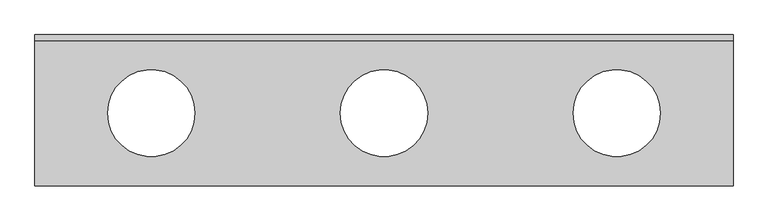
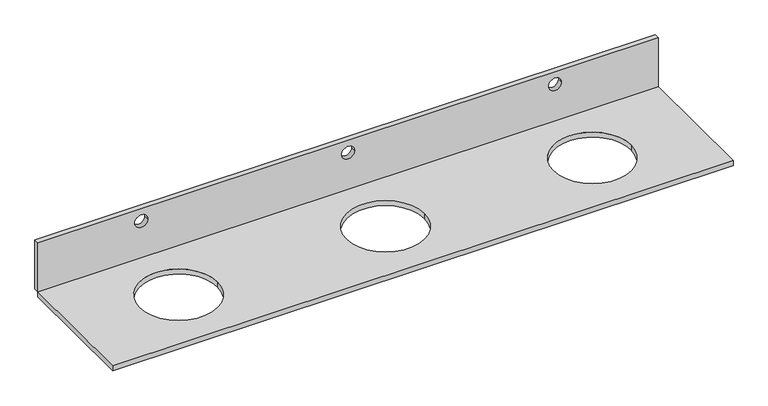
"""IFC4 building model written with IfcOpenShell, lengths in millimetres: furniture geometry, P03 Mesada Silestone 3 bachas : P03 Mesada Silestone 3 bachas."""

import ifcopenshell
import ifcopenshell.guid

model = None  # the IFC model being written
_history = None  # IfcOwnerHistory: only IFC2X3 demands one
_inside = {}  # id of a spatial element -> (the spatial element, [elements in it])
_under = {}  # id of a project, library or spatial element -> (it, [spatial elements below it])
_declared = {}  # id of a project -> (the project, [libraries it declares])
_typed = {}  # id of a type object -> (the type object, [elements of that type])
_made_of = {}  # id of a material, layer set ... -> (it, [elements and type objects made of it])


def new_model(schema):
    """Start an empty IFC model of exactly this schema.

    Asked for "IFC4X3", IfcOpenShell would pick the latest addendum, in which some entities
    have other attributes; the version numbers below select the first issue.
    IFC2X3 requires an IfcOwnerHistory on every rooted entity: one is made here for all.
    """
    global model, _history
    if schema == "IFC4X3":
        model = ifcopenshell.file(schema_version=(4, 3, 0, 0))
    else:
        model = ifcopenshell.file(schema=schema)
    _inside.clear()
    _under.clear()
    _declared.clear()
    _typed.clear()
    _made_of.clear()
    _history = None
    if model.schema == "IFC2X3":
        org = make("IfcOrganization", Name="unknown")
        user = make(
            "IfcPersonAndOrganization",
            ThePerson=make("IfcPerson", FamilyName="unknown"),
            TheOrganization=org,
        )
        app = make(
            "IfcApplication",
            ApplicationDeveloper=org,
            Version="unknown",
            ApplicationFullName="unknown",
            ApplicationIdentifier="unknown",
        )
        _history = make(
            "IfcOwnerHistory",
            OwningUser=user,
            OwningApplication=app,
            ChangeAction="ADDED",
            CreationDate=0,
        )
    return model


def make(cls, **values):
    """One entity of the class cls with the attributes given. An attribute that is None is left unset."""
    return model.create_entity(
        cls, **{name: value for name, value in values.items() if value is not None}
    )


def rooted(cls, **values):
    """An entity with a GlobalId (a new one), such as an element, a storey or a relation."""
    return make(cls, GlobalId=ifcopenshell.guid.new(), OwnerHistory=_history, **values)


def si_unit(unit_type, name, prefix=None):
    """IfcSIUnit, for example si_unit("LENGTHUNIT", "METRE", prefix="MILLI")."""
    return make("IfcSIUnit", UnitType=unit_type, Prefix=prefix, Name=name)


def assignment(units):
    """IfcUnitAssignment: the units of a project."""
    return None if units is None else make("IfcUnitAssignment", Units=units)


def point(xyz):
    """IfcCartesianPoint."""
    return None if xyz is None else make("IfcCartesianPoint", Coordinates=xyz)


def direction(xyz):
    """IfcDirection."""
    return None if xyz is None else make("IfcDirection", DirectionRatios=xyz)


def frame(location, z_axis=None, x_axis=None):
    """IfcAxis2Placement3D, a coordinate frame: its origin and axes. An axis left out is left unset."""
    return make(
        "IfcAxis2Placement3D",
        Location=point(location),
        Axis=direction(z_axis),
        RefDirection=direction(x_axis),
    )


def frame_2d(location, x_axis=None):
    """IfcAxis2Placement2D, a coordinate frame in the plane: its origin and x axis."""
    return make(
        "IfcAxis2Placement2D", Location=point(location), RefDirection=direction(x_axis)
    )


def origin():
    """The frame at (0, 0, 0) with its axes left unset."""
    return frame((0.0, 0.0, 0.0))


def origin_with_axes():
    """The frame at (0, 0, 0) with the z axis (0, 0, 1) and the x axis (1, 0, 0) written out."""
    return frame((0.0, 0.0, 0.0), z_axis=(0.0, 0.0, 1.0), x_axis=(1.0, 0.0, 0.0))


def place(relative_to, where):
    """IfcLocalPlacement: puts the frame where relative to a parent placement (None: the world)."""
    return make(
        "IfcLocalPlacement", PlacementRelTo=relative_to, RelativePlacement=where
    )


def context(
    kind, dimensions, precision=None, world=None, true_north=None, identifier=None
):
    """IfcGeometricRepresentationContext, for example the 3D "Model" context."""
    return make(
        "IfcGeometricRepresentationContext",
        ContextIdentifier=identifier,
        ContextType=kind,
        CoordinateSpaceDimension=dimensions,
        Precision=precision,
        WorldCoordinateSystem=world,
        TrueNorth=true_north,
    )


def project(units=None, contexts=None):
    """IfcProject with its units and contexts."""
    return rooted(
        "IfcProject",
        Name="project",
        RepresentationContexts=contexts,
        UnitsInContext=assignment(units),
    )


def spatial(cls, under=None, at=None, **own):
    """A site, building, storey or space (cls), placed at a placement, below another one or the project."""
    s = rooted(cls, ObjectPlacement=at, **own)
    if under is not None:
        _under.setdefault(under.id(), (under, []))[1].append(s)
    return s


def polyline(points):
    """IfcPolyline through the points."""
    return make("IfcPolyline", Points=[point(p) for p in points])


def circle_curve(where, radius):
    """IfcCircle in the frame where."""
    return make("IfcCircle", Position=where, Radius=radius)


def trimmed(basis, trim1, trim2, sense, master):
    """IfcTrimmedCurve: the piece of a basis curve between two trims."""
    return make(
        "IfcTrimmedCurve",
        BasisCurve=basis,
        Trim1=trim1,
        Trim2=trim2,
        SenseAgreement=sense,
        MasterRepresentation=master,
    )


def segment(curve, same_sense, transition):
    """IfcCompositeCurveSegment."""
    return make(
        "IfcCompositeCurveSegment",
        Transition=transition,
        SameSense=same_sense,
        ParentCurve=curve,
    )


def composite_curve(segments, self_intersect=None):
    """IfcCompositeCurve: segments joined end to end."""
    return make("IfcCompositeCurve", Segments=segments, SelfIntersect=self_intersect)


def outline(outer, holes=None, kind="AREA"):
    """IfcArbitraryClosedProfileDef: a profile drawn as a closed curve; with holes, ...WithVoids."""
    if holes is None:
        return make("IfcArbitraryClosedProfileDef", ProfileType=kind, OuterCurve=outer)
    return make(
        "IfcArbitraryProfileDefWithVoids",
        ProfileType=kind,
        OuterCurve=outer,
        InnerCurves=holes,
    )


def extrude(swept, where, along, depth):
    """IfcExtrudedAreaSolid: the profile swept, set in the frame where, extruded along a direction by depth."""
    return make(
        "IfcExtrudedAreaSolid",
        SweptArea=swept,
        Position=where,
        ExtrudedDirection=direction(along),
        Depth=depth,
    )


def shape(context_of_items, identifier, shape_type, items):
    """IfcShapeRepresentation: the items that make up one representation, for example the "Body"."""
    return make(
        "IfcShapeRepresentation",
        ContextOfItems=context_of_items,
        RepresentationIdentifier=identifier,
        RepresentationType=shape_type,
        Items=items,
    )


def source(mapping_origin, context_of_items, identifier, shape_type, items):
    """IfcRepresentationMap: a shape defined once, which mapped items show again and again."""
    return make(
        "IfcRepresentationMap",
        MappingOrigin=mapping_origin,
        MappedRepresentation=shape(context_of_items, identifier, shape_type, items),
    )


def transform(
    local_origin,
    x_axis=None,
    y_axis=None,
    z_axis=None,
    scale=None,
    scale2=None,
    scale3=None,
    uniform=True,
):
    """IfcCartesianTransformationOperator3D, or its non-uniform kind. x_axis, y_axis, z_axis: its Axis1, 2, 3."""
    if uniform:
        return make(
            "IfcCartesianTransformationOperator3D",
            Axis1=direction(x_axis),
            Axis2=direction(y_axis),
            LocalOrigin=point(local_origin),
            Scale=scale,
            Axis3=direction(z_axis),
        )
    return make(
        "IfcCartesianTransformationOperator3DnonUniform",
        Axis1=direction(x_axis),
        Axis2=direction(y_axis),
        LocalOrigin=point(local_origin),
        Scale=scale,
        Axis3=direction(z_axis),
        Scale2=scale2,
        Scale3=scale3,
    )


def mapped(mapping_source, mapping_target):
    """IfcMappedItem: shows the shape of a source again, moved by a transform."""
    return make(
        "IfcMappedItem", MappingSource=mapping_source, MappingTarget=mapping_target
    )


def made_of(thing, what):
    """Note that an element or type object is made of a material, layer set ...; save() writes the relation."""
    if what is not None:
        _made_of.setdefault(what.id(), (what, []))[1].append(thing)
    return thing


def element(
    cls,
    number,
    at=None,
    inside=None,
    cuts=None,
    type_object=None,
    material=None,
    context=None,
    identifier="Body",
    shape_type=None,
    held_by="IfcProductDefinitionShape",
    body=None,
    shapes=None,
    **own,
):
    """One element of the class cls, such as IfcWall. Its Tag is "e" and its number.

    at: its placement. inside: the storey or other place that contains it. cuts: it is an
    opening in that element (IfcRelVoidsElement). A single representation is given by context,
    identifier, shape_type and body (its items); several are given by shapes. held_by: the class
    of the entity that holds the representations. save() writes the other relations.
    """
    e = rooted(cls, Tag="e%d" % number, ObjectPlacement=at, **own)
    if body is not None:
        shapes = [shape(context, identifier, shape_type, body)]
    if shapes is not None:
        e.Representation = make(held_by, Representations=shapes)
    if inside is not None:
        _inside.setdefault(inside.id(), (inside, []))[1].append(e)
    if cuts is not None:
        rooted(
            "IfcRelVoidsElement", RelatingBuildingElement=cuts, RelatedOpeningElement=e
        )
    if type_object is not None:
        _typed.setdefault(type_object.id(), (type_object, []))[1].append(e)
    return made_of(e, material)


def aggregate(whole, parts):
    """IfcRelAggregates: a whole, such as a stair, and the parts it consists of."""
    return rooted("IfcRelAggregates", RelatingObject=whole, RelatedObjects=parts)


def save(model, path):
    """Write the relations noted so far, then the file.

    IfcRelAggregates (storeys below a building ...), IfcRelContainedInSpatialStructure (elements
    in a storey), IfcRelDefinesByType, IfcRelAssociatesMaterial and IfcRelDeclares: one each for
    every whole, place, type object, material and project.
    """
    for whole, parts in _under.values():
        aggregate(whole, parts)
    for where, things in _inside.values():
        rooted(
            "IfcRelContainedInSpatialStructure",
            RelatedElements=things,
            RelatingStructure=where,
        )
    for kind, things in _typed.values():
        rooted("IfcRelDefinesByType", RelatedObjects=things, RelatingType=kind)
    for what, things in _made_of.values():
        rooted("IfcRelAssociatesMaterial", RelatedObjects=things, RelatingMaterial=what)
    for by, libraries in _declared.values():
        rooted("IfcRelDeclares", RelatingContext=by, RelatedDefinitions=libraries)
    model.write(path)


def furniture_e801d33e(model_context):
    return source(origin(), model_context, "Body", "SweptSolid", [
        extrude(outline(polyline([(220.0, 1244.7003264), (220.0, -1155.2996736), (20.0, -1155.2996736), (20.0, 1244.7003264), (220.0, 1244.7003264)]), holes=[composite_curve([segment(trimmed(circle_curve(frame_2d((170.0, -755.2996736)), 25.0), [point((170.0, -780.2996736))], [point((170.0, -730.2996736))], True, "CARTESIAN"), True, "CONTINUOUS"), segment(trimmed(circle_curve(frame_2d((170.0, -755.2996736)), 25.0), [point((170.0, -730.2996736))], [point((170.0, -780.2996736))], True, "CARTESIAN"), True, "CONTINUOUS")], self_intersect=False), composite_curve([segment(trimmed(circle_curve(frame_2d((170.0, 44.7003264)), 25.0), [point((170.0, 19.7003264))], [point((170.0, 69.7003264))], True, "CARTESIAN"), True, "CONTINUOUS"), segment(trimmed(circle_curve(frame_2d((170.0, 44.7003264)), 25.0), [point((170.0, 69.7003264))], [point((170.0, 19.7003264))], True, "CARTESIAN"), True, "CONTINUOUS")], self_intersect=False), composite_curve([segment(trimmed(circle_curve(frame_2d((170.0, 844.7003264)), 25.0), [point((170.0, 819.7003264))], [point((170.0, 869.7003264))], True, "CARTESIAN"), True, "CONTINUOUS"), segment(trimmed(circle_curve(frame_2d((170.0, 844.7003264)), 25.0), [point((170.0, 869.7003264))], [point((170.0, 819.7003264))], True, "CARTESIAN"), True, "CONTINUOUS")], self_intersect=False)]), frame((0.0, 0.0, 0.0), z_axis=(0.0, 1.0, 0.0), x_axis=(0.0, 0.0, 1.0)), (0.0, 0.0, 1.0), 20.0),
        extrude(outline(polyline([(1244.7003264, -500.0), (-1155.2996736, -500.0), (-1155.2996736, 0.0), (1244.7003264, 0.0), (1244.7003264, -500.0)]), holes=[composite_curve([segment(trimmed(circle_curve(frame_2d((-755.2996736, -250.0)), 150.0), [point((-905.2996736, -250.0))], [point((-605.2996736, -250.0))], True, "CARTESIAN"), True, "CONTINUOUS"), segment(trimmed(circle_curve(frame_2d((-755.2996736, -250.0)), 150.0), [point((-605.2996736, -250.0))], [point((-905.2996736, -250.0))], True, "CARTESIAN"), True, "CONTINUOUS")], self_intersect=False), composite_curve([segment(trimmed(circle_curve(frame_2d((44.7003264, -250.0)), 150.0), [point((-105.2996736, -250.0))], [point((194.7003264, -250.0))], True, "CARTESIAN"), True, "CONTINUOUS"), segment(trimmed(circle_curve(frame_2d((44.7003264, -250.0)), 150.0), [point((194.7003264, -250.0))], [point((-105.2996736, -250.0))], True, "CARTESIAN"), True, "CONTINUOUS")], self_intersect=False), composite_curve([segment(trimmed(circle_curve(frame_2d((844.7003264, -250.0)), 150.0), [point((694.7003264, -250.0))], [point((994.7003264, -250.0))], True, "CARTESIAN"), True, "CONTINUOUS"), segment(trimmed(circle_curve(frame_2d((844.7003264, -250.0)), 150.0), [point((994.7003264, -250.0))], [point((694.7003264, -250.0))], True, "CARTESIAN"), True, "CONTINUOUS")], self_intersect=False)]), origin_with_axes(), (0.0, 0.0, 1.0), 20.0),
    ])


if __name__ == "__main__":
    model = new_model("IFC4")
    model_context = context("Model", 3, world=origin())
    ifc_project = project(units=[si_unit("LENGTHUNIT", "METRE", prefix="MILLI")], contexts=[model_context])
    site = spatial("IfcSite", under=ifc_project)
    building = spatial("IfcBuilding", under=site)
    placement = place(None, origin())
    furniture_shape = furniture_e801d33e(model_context)
    element("IfcFurniture", 1, ObjectType="P03 Mesada Silestone 3 bachas : P03 Mesada Silestone 3 bachas", at=placement, inside=building, context=model_context, shape_type="MappedRepresentation", body=[
        mapped(furniture_shape, transform((0.0, 0.0, 0.0), x_axis=(1.0, 0.0, 0.0), y_axis=(0.0, 1.0, 0.0), z_axis=(0.0, 0.0, 1.0))),
    ])
    save(model, "model.ifc")
